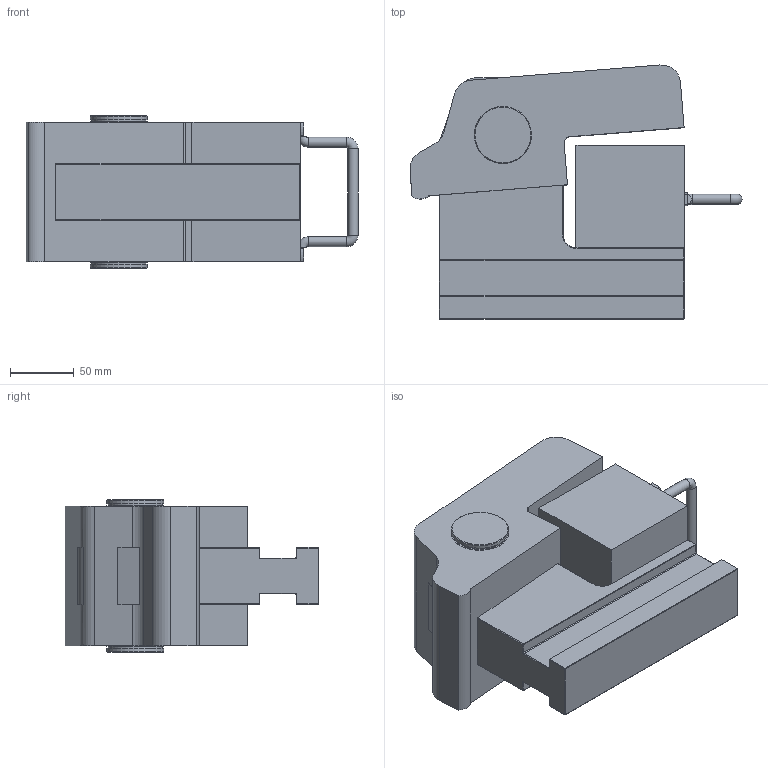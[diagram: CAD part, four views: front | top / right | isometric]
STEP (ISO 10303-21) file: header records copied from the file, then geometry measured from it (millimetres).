
FILE_DESCRIPTION(/* description */ (''),/* implementation_level */ '2;1');
FILE_NAME(/* name */ 'P:\Standard products\2. QDC Clamping Systems\11. ELY - Rocker Clamp\ELY Standard range\3d step files\ELY160_S (11-08-22).stp',/* time_stamp */ '2022-08-11T15:39:12+02:00',/* author */ ('schothorsth'),/* organization */ (''),/* preprocessor_version */ 'ST-DEVELOPER v17.2',/* originating_system */ 'Autodesk Inventor 2019',/* authorisation */ '');
FILE_SCHEMA (('AUTOMOTIVE_DESIGN { 1 0 10303 214 3 1 1 }'));
Length unit declared in the file: millimetre
Products named in the file (1): ELY160_S (11-08-22)
Bounding box: 261 x 199.55 x 120 mm (x, y, z)
Volume: 2883640.2 mm3; surface area: 192254.9 mm2
Topology: 1 solids, 1 shells, 142 faces, 325 edges, 192 vertices
Faces by surface type: plane 95, cylinder 31, cone 12, torus 4
Full cylindrical faces by diameter (mm): 8 x3, 42.5 x2, 44.95 x4
Entity records: 4239 total; most frequent: CARTESIAN_POINT 784, DIRECTION 687, ORIENTED_EDGE 650, EDGE_CURVE 325, LINE 229, VECTOR 229, AXIS2_PLACEMENT_3D 229, VERTEX_POINT 192
